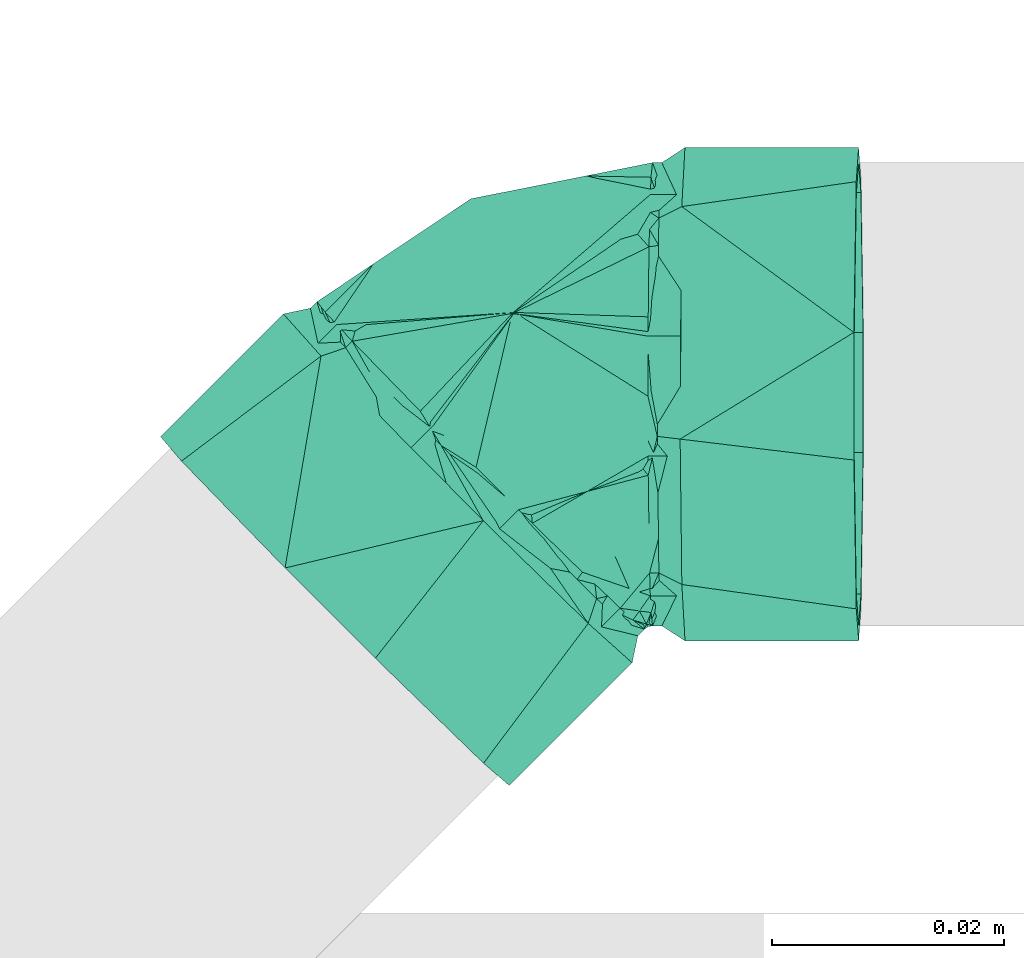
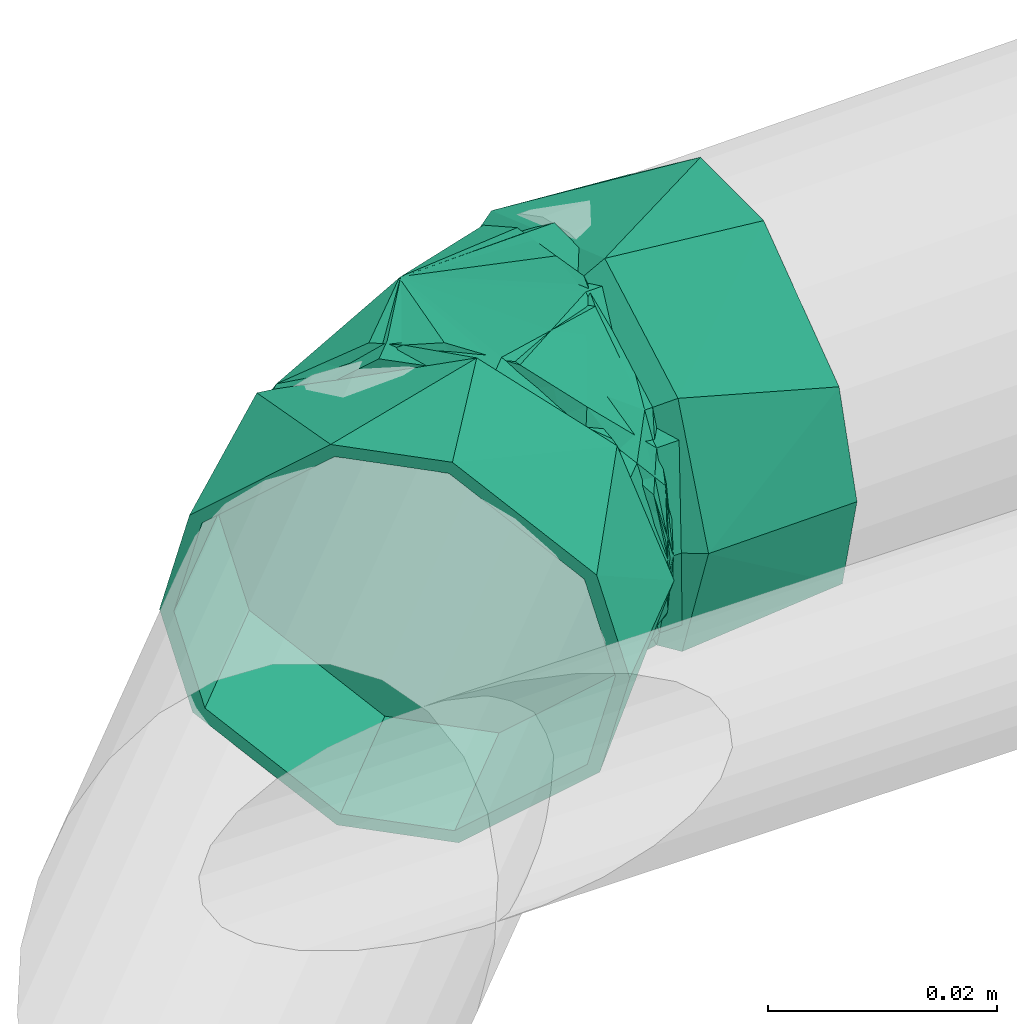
# One storey, part 306 of 589: 1 flow fitting.
"""IFC2X3 building model written with IfcOpenShell, lengths in millimetres."""

from ifc_helpers import new_model, entity, si_unit, converted_unit, derived_unit, direction, frame, origin, place, context, subcontext, project, spatial, faceted_brep, source, transform, mapped, material, type_object, type_shapes, element, save


model = new_model("IFC2X3")

# Units and contexts
model_context = context("Model", 3, precision=0.01, world=origin(), true_north=direction((6.123031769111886e-17, 1.0)))
body_context = subcontext(model_context, "Body", "Model", "MODEL_VIEW")
ifc_project = project(units=[si_unit("LENGTHUNIT", "METRE", prefix="MILLI"), si_unit("AREAUNIT", "SQUARE_METRE"), si_unit("VOLUMEUNIT", "CUBIC_METRE"), converted_unit("PLANEANGLEUNIT", "DEGREE", entity("IfcRatioMeasure", 0.017453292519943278), si_unit("PLANEANGLEUNIT", "RADIAN"), dimensions=[0, 0, 0, 0, 0, 0, 0]), si_unit("MASSUNIT", "GRAM", prefix="KILO"), derived_unit("MASSDENSITYUNIT", [(si_unit("MASSUNIT", "GRAM", prefix="KILO"), 1), (si_unit("LENGTHUNIT", "METRE"), -3)]), derived_unit("IONCONCENTRATIONUNIT", [(si_unit("MASSUNIT", "GRAM", prefix="KILO"), 1), (si_unit("LENGTHUNIT", "METRE"), -3)]), derived_unit("MOMENTOFINERTIAUNIT", [(si_unit("LENGTHUNIT", "METRE"), 4)]), si_unit("TIMEUNIT", "SECOND"), si_unit("FREQUENCYUNIT", "HERTZ"), si_unit("THERMODYNAMICTEMPERATUREUNIT", "DEGREE_CELSIUS"), derived_unit("THERMALTRANSMITTANCEUNIT", [(si_unit("MASSUNIT", "GRAM", prefix="KILO"), 1), (si_unit("THERMODYNAMICTEMPERATUREUNIT", "KELVIN"), -1), (si_unit("TIMEUNIT", "SECOND"), -3)]), derived_unit("THERMALCONDUCTANCEUNIT", [(si_unit("MASSUNIT", "GRAM", prefix="KILO"), 1), (si_unit("THERMODYNAMICTEMPERATUREUNIT", "KELVIN"), -1), (si_unit("TIMEUNIT", "SECOND"), -3), (si_unit("LENGTHUNIT", "METRE"), 1)]), derived_unit("VOLUMETRICFLOWRATEUNIT", [(si_unit("LENGTHUNIT", "METRE"), 3), (si_unit("TIMEUNIT", "SECOND"), -1)]), derived_unit("MASSFLOWRATEUNIT", [(si_unit("MASSUNIT", "GRAM", prefix="KILO"), 1), (si_unit("TIMEUNIT", "SECOND"), -1)]), derived_unit("ROTATIONALFREQUENCYUNIT", [(si_unit("TIMEUNIT", "SECOND"), -1)]), si_unit("ELECTRICCURRENTUNIT", "AMPERE"), si_unit("ELECTRICVOLTAGEUNIT", "VOLT"), si_unit("POWERUNIT", "WATT"), si_unit("FORCEUNIT", "NEWTON", prefix="KILO"), si_unit("ILLUMINANCEUNIT", "LUX"), si_unit("LUMINOUSFLUXUNIT", "LUMEN"), si_unit("LUMINOUSINTENSITYUNIT", "CANDELA"), derived_unit("USERDEFINED", [(si_unit("MASSUNIT", "GRAM", prefix="KILO"), -1), (si_unit("LENGTHUNIT", "METRE"), -2), (si_unit("TIMEUNIT", "SECOND"), 3), (si_unit("LUMINOUSFLUXUNIT", "LUMEN"), 1)]), derived_unit("USERDEFINED", [(si_unit("MASSUNIT", "GRAM", prefix="KILO"), 1), (si_unit("TIMEUNIT", "SECOND"), -3), (si_unit("LENGTHUNIT", "METRE"), 3), (si_unit("ELECTRICCURRENTUNIT", "AMPERE"), -2)]), derived_unit("SOUNDPOWERUNIT", [(si_unit("MASSUNIT", "GRAM", prefix="KILO"), 1), (si_unit("TIMEUNIT", "SECOND"), -3), (si_unit("LENGTHUNIT", "METRE"), 2)]), derived_unit("SOUNDPRESSUREUNIT", [(si_unit("MASSUNIT", "GRAM", prefix="KILO"), 1), (si_unit("LENGTHUNIT", "METRE"), -1), (si_unit("TIMEUNIT", "SECOND"), -2)]), derived_unit("LINEARVELOCITYUNIT", [(si_unit("LENGTHUNIT", "METRE"), 1), (si_unit("TIMEUNIT", "SECOND"), -1)]), si_unit("PRESSUREUNIT", "PASCAL"), derived_unit("USERDEFINED", [(si_unit("MASSUNIT", "GRAM", prefix="KILO"), 1), (si_unit("LENGTHUNIT", "METRE"), -2), (si_unit("TIMEUNIT", "SECOND"), -2)]), derived_unit("LINEARFORCEUNIT", [(si_unit("MASSUNIT", "GRAM", prefix="KILO"), 1), (si_unit("TIMEUNIT", "SECOND"), -2)]), derived_unit("PLANARFORCEUNIT", [(si_unit("MASSUNIT", "GRAM", prefix="KILO"), 1), (si_unit("LENGTHUNIT", "METRE"), -1), (si_unit("TIMEUNIT", "SECOND"), -2)]), derived_unit("SPECIFICHEATCAPACITYUNIT", [(si_unit("THERMODYNAMICTEMPERATUREUNIT", "KELVIN"), -1), (si_unit("LENGTHUNIT", "METRE"), 2), (si_unit("TIMEUNIT", "SECOND"), -2)]), derived_unit("HEATINGVALUEUNIT", [(si_unit("LENGTHUNIT", "METRE"), 2), (si_unit("TIMEUNIT", "SECOND"), -2)]), derived_unit("VAPORPERMEABILITYUNIT", [(si_unit("LENGTHUNIT", "METRE"), -1), (si_unit("TIMEUNIT", "SECOND"), 1)]), derived_unit("DYNAMICVISCOSITYUNIT", [(si_unit("MASSUNIT", "GRAM", prefix="KILO"), 1), (si_unit("TIMEUNIT", "SECOND"), -1), (si_unit("LENGTHUNIT", "METRE"), -1)]), derived_unit("THERMALEXPANSIONCOEFFICIENTUNIT", [(si_unit("THERMODYNAMICTEMPERATUREUNIT", "KELVIN"), -1)]), derived_unit("MODULUSOFELASTICITYUNIT", [(si_unit("MASSUNIT", "GRAM", prefix="KILO"), 1), (si_unit("LENGTHUNIT", "METRE"), -1), (si_unit("TIMEUNIT", "SECOND"), -2)]), derived_unit("ISOTHERMALMOISTURECAPACITYUNIT", [(si_unit("LENGTHUNIT", "METRE"), 3), (si_unit("MASSUNIT", "GRAM", prefix="KILO"), -1)]), derived_unit("MOISTUREDIFFUSIVITYUNIT", [(si_unit("TIMEUNIT", "SECOND"), -1), (si_unit("LENGTHUNIT", "METRE"), 2)])], contexts=[model_context])

# Site, building, storey
site_placement = place(None, origin())
site = spatial("IfcSite", under=ifc_project, at=site_placement, Name="Default", CompositionType="ELEMENT")
building_placement = place(site_placement, origin())
building = spatial("IfcBuilding", under=site, at=building_placement, CompositionType="ELEMENT")
storey_placement = place(building_placement, frame((0.0, 0.0, 100.0)))
storey = spatial("IfcBuildingStorey", under=building, at=storey_placement, Name="TÉRREO", CompositionType="ELEMENT", Elevation=100.0)

# Flow fitting
ifc_material = material(Name="PVC Série Normal")
pipe_fitting_type = type_object("IfcPipeFittingType", Name="PVC Esgoto_Joelho 45_90_Rodrigo MEP:a. Série Normal", PredefinedType="NOTDEFINED", material=ifc_material)
shared_shape = source(origin(), body_context, "Body", "Brep", [
    faceted_brep([(2.4906876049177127, 9.80915852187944, 19.318516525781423), (-6.095084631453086, 18.39777540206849, 10.0), (-7.989457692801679, 20.29277610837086, 0.0), (-6.095084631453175, 18.397775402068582, -10.0), (2.4906876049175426, 9.80915852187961, -19.31851652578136), (9.809983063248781, 2.4874380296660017, -19.318516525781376), (18.39575529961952, -6.101178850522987, -10.0), (20.290128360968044, -7.99617955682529, 0.0), (18.39575529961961, -6.101178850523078, 10.0), (9.809983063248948, 2.4874380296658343, 19.318516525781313), (22.27035525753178, -6.016608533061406, 0.0), (20.37598219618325, -4.121607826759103, -10.0), (11.790209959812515, 4.467009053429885, -19.318516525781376), (4.470914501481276, 11.788729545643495, -19.31851652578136), (-4.1148577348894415, 20.377346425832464, -10.0), (-6.009230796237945, 22.272347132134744, 0.0), (-4.114857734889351, 20.377346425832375, 10.0), (4.470914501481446, 11.788729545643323, 19.318516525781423), (11.790209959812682, 4.467009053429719, 19.318516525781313), (20.37598219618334, -4.12160782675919, 10.0)], [[[0, 1, 2, 3, 4, 5, 6, 7, 8, 9]], [[10, 11, 12, 13, 14, 15, 16, 17, 18, 19]], [[7, 10, 19, 8]], [[8, 19, 18, 9]], [[18, 17, 0, 9]], [[0, 17, 16, 1]], [[1, 16, 15, 2]], [[2, 15, 14, 3]], [[3, 14, 13, 4]], [[13, 12, 5, 4]], [[5, 12, 11, 6]], [[6, 11, 10, 7]]]),
    faceted_brep([(-11.496447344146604, -17.320508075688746, -10.0), (-11.496447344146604, -20.0, 0.0), (-11.496447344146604, -17.320508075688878, 10.0), (-11.496447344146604, -5.176380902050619, 19.318516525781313), (-11.496447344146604, 5.1763809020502, 19.318516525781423), (-11.496447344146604, 17.320508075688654, 10.0), (-11.496447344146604, 20.0, 0.0), (-11.496447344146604, 17.320508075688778, -10.0), (-11.496447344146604, 5.17638090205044, -19.31851652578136), (-11.496447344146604, -5.176380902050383, -19.318516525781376), (-8.696447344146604, 5.17638090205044, -19.31851652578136), (-8.696447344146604, 17.320508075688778, -10.0), (-8.696447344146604, 20.0, 0.0), (-8.696447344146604, 17.320508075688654, 10.0), (-8.696447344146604, 5.1763809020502, 19.318516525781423), (-8.696447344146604, -5.176380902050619, 19.318516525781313), (-8.696447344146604, -17.320508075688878, 10.0), (-8.696447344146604, -20.0, 0.0), (-8.696447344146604, -17.320508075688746, -10.0), (-8.696447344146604, -5.176380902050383, -19.318516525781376)], [[[0, 1, 2, 3, 4, 5, 6, 7, 8, 9]], [[10, 11, 12, 13, 14, 15, 16, 17, 18, 19]], [[1, 17, 16, 2]], [[2, 16, 15, 3]], [[15, 14, 4, 3]], [[4, 14, 13, 5]], [[5, 13, 12, 6]], [[6, 12, 11, 7]], [[7, 11, 10, 8]], [[10, 19, 9, 8]], [[9, 19, 18, 0]], [[0, 18, 17, 1]]]),
    faceted_brep([(-26.496447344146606, -5.512845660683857, -20.574220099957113), (-26.496447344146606, -5.176380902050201, -19.318516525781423), (-26.496447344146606, 5.176380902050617, -19.318516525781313), (-26.496447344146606, -18.44634110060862, -10.649999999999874), (-26.496447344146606, 5.512845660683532, -20.574220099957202), (-26.496447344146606, -17.320508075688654, -10.0), (-26.496447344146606, -20.0, 0.0), (-26.496447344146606, -21.3, 0.0), (-26.496447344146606, -17.32050807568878, 10.0), (-26.496447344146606, -18.446341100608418, 10.65000000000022), (-26.496447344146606, -5.176380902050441, 19.31851652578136), (-26.496447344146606, -5.512845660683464, 20.574220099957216), (-26.496447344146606, 5.176380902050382, 19.318516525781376), (-26.496447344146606, 5.512845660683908, 20.5742200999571), (-26.496447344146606, 17.320508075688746, 10.0), (-26.496447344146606, 18.446341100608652, 10.649999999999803), (-26.496447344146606, 21.3, 0.0), (-26.496447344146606, 20.0, 0.0), (-26.496447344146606, 18.44634110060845, -10.650000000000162), (-26.496447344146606, 17.320508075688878, -10.0), (-11.496447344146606, 17.320508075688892, -10.0), (-11.496447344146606, 20.0, 0.0), (-11.496447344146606, 5.17638090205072, -19.318516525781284), (-11.496447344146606, -5.176380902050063, -19.31851652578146), (-11.496447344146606, -17.320508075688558, -10.0), (-11.496447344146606, -20.0, 0.0), (-11.496447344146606, -17.320508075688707, 10.0), (-11.496447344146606, -5.176380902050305, 19.318516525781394), (-11.496447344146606, 5.176380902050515, 19.318516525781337), (-11.496447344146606, 17.320508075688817, 10.0), (-11.496447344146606, 21.3, 0.0), (-11.496447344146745, 16.315983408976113, 13.692285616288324), (-11.496447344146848, 3.696367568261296, 20.976817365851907), (-11.496447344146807, -16.31941754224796, 13.688192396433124), (-11.496447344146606, -21.3, 0.0), (-11.496447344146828, -6.311524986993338, 17.3325048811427), (-11.496447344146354, -16.319417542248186, -13.688192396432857), (-11.496447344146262, -3.7016293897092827, -20.975889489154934), (-11.49644734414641, 16.315983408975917, -13.692285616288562), (-11.496447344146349, 6.307177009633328, -17.334087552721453), (-9.496447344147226, -3.470767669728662, -19.69654212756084), (-9.496447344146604, 20.0, 0.0), (-9.496447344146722, 18.830849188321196, -3.2131907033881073), (-9.496447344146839, 17.66169837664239, -6.426381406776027), (-9.496447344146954, 16.4925475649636, -9.639572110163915), (-9.496447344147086, 15.323396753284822, -12.852762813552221), (-9.496447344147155, 5.9263145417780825, -16.27465247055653), (-9.496447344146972, -15.320172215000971, -12.856606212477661), (-9.496447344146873, -16.490129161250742, -9.642454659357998), (-9.496447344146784, -17.660086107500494, -6.428303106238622), (-9.496447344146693, -18.830043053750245, -3.214151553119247), (-9.496447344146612, -20.0, 0.0), (-9.496447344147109, 10.624855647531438, -14.563707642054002), (-9.496447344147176, 1.2277734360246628, -17.98559729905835), (-9.49644734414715, -6.433118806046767, -17.98655814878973), (-9.496447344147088, -9.395469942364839, -16.276574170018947), (-9.496447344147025, -12.357821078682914, -14.566590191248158), (-9.49644734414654, -18.830043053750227, 3.2141515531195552), (-9.496447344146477, -17.660086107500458, 6.428303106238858), (-9.49644734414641, -16.490129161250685, 9.64245465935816), (-9.496447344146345, -15.3201722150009, 12.856606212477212), (-9.496447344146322, -12.970687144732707, 13.711489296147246), (-9.496447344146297, -10.621202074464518, 14.566372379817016), (-9.496447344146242, -5.922231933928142, 16.27613854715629), (-9.496447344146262, 15.323396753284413, 12.852762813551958), (-9.496447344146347, 16.49254756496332, 9.63957211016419), (-9.496447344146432, 17.661698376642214, 6.426381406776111), (-9.496447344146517, 18.830849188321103, 3.213190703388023), (-9.496447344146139, 3.47570834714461, 19.695670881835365), (-9.496447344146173, 6.43763044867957, 17.984943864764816), (-9.496447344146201, 9.399552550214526, 16.274216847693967), (-9.496447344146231, 12.361474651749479, 14.563489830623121), (-9.496447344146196, -1.2232617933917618, 17.985904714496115), (-8.696447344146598, 17.057389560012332, 9.848048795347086), (-8.696447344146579, 6.840479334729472, 18.793824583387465), (-8.696447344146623, -9.848049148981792, 17.057385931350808), (-8.696447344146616, -3.420183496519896, 19.396932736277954), (-8.696447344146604, 0.0, 20.0), (-8.696447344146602, 19.396930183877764, 3.4201905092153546), (-8.696447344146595, 15.320918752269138, 12.855716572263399), (-8.696447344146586, 11.080699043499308, 15.82477057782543), (-8.696447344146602, 18.793860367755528, 6.840381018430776), (-8.696447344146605, -18.793848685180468, 6.840413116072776), (-8.696447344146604, 20.0, 0.0), (-8.696447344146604, -20.0, 0.0), (-8.69644734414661, -15.824789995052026, 11.080659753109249), (-8.696447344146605, -19.156924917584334, 4.781308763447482), (-8.696447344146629, -6.84036699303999, 18.793865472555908), (-8.696447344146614, -14.34026064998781, 13.200783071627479), (-8.696447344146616, -12.855731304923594, 15.320906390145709), (-8.696447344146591, 3.420239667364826, 19.396912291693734), (-8.696447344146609, -17.057361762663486, -9.848091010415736), (-8.696447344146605, -18.793848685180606, -6.840413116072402), (-8.696447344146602, 19.39693018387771, -3.4201905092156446), (-8.696447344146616, -3.420183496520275, -19.396932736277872), (-8.696447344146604, 0.0, -20.0), (-8.696447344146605, -19.396924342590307, -3.4202065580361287), (-8.696447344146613, -15.320874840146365, -12.85576890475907), (-8.69644734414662, -11.080620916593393, -15.824817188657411), (-8.696447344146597, 15.824828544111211, -11.080616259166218), (-8.696447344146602, 18.79386036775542, -6.84038101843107), (-8.696447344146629, -6.840366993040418, -18.79386547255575), (-8.696447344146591, 12.855796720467, -15.320851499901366), (-8.696447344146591, 3.420239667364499, -19.396912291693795), (-8.696447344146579, 6.840479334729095, -18.7938245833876), (-8.696447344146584, 9.848138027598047, -17.05733804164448), (9.809983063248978, 2.4874380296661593, -19.318516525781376), (2.4906876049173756, 9.809158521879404, -19.31851652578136), (-6.095084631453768, 18.397775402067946, -10.0), (-7.989457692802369, 20.292776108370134, 0.0), (-6.095084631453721, 18.3977754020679, 10.0), (2.490687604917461, 9.809158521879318, 19.31851652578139), (9.809983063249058, 2.487438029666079, 19.318516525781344), (18.395755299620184, -6.101178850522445, 10.0), (20.29012836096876, -7.996179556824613, 0.0), (18.39575529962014, -6.101178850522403, -10.0), (-2.9114305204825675, -18.849537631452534, 0.0), (15.385461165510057, -11.272492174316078, 0.0), (2.8664382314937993, -7.211469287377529, 17.605576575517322), (6.9904363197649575, -16.880360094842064, 0.0), (-8.313840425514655, 20.076088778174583, 0.0), (2.8664382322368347, -7.211469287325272, -17.605576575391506)], [[[0, 1, 2]], [[1, 0, 3]], [[2, 4, 0]], [[3, 5, 1]], [[3, 6, 5]], [[6, 3, 7]], [[8, 6, 7]], [[8, 7, 9]], [[9, 10, 8]], [[9, 11, 10]], [[10, 11, 12]], [[13, 12, 11]], [[13, 14, 12]], [[14, 13, 15]], [[16, 14, 15]], [[17, 14, 16]], [[18, 17, 16]], [[18, 19, 17]], [[19, 18, 4]], [[4, 2, 19]], [[20, 21, 17, 19]], [[22, 20, 19, 2]], [[2, 1, 23, 22]], [[24, 23, 1, 5]], [[25, 24, 5, 6]], [[26, 25, 6, 8]], [[27, 26, 8, 10]], [[10, 12, 28, 27]], [[29, 28, 12, 14]], [[21, 29, 14, 17]], [[16, 15, 30]], [[15, 31, 30]], [[31, 15, 13]], [[31, 13, 32]], [[33, 11, 9]], [[34, 9, 7]], [[11, 33, 35, 32]], [[33, 9, 34]], [[11, 32, 13]], [[7, 3, 34]], [[3, 36, 34]], [[36, 3, 0]], [[36, 0, 37]], [[38, 4, 18]], [[30, 18, 16]], [[4, 38, 39, 37]], [[38, 18, 30]], [[4, 37, 0]], [[28, 29, 21, 20, 22, 23, 24, 25, 26, 27]], [[39, 40, 37]], [[30, 41, 42, 43, 44, 45]], [[30, 45, 38]], [[38, 46, 39]], [[36, 47, 48, 49, 50, 51]], [[38, 45, 52, 46]], [[36, 37, 47]], [[34, 36, 51]], [[39, 46, 53, 40]], [[37, 40, 54, 55, 56, 47]], [[33, 51, 57, 58, 59, 60]], [[33, 34, 51]], [[60, 35, 33]], [[35, 60, 61, 62, 63]], [[63, 32, 35]], [[30, 64, 65, 66, 67, 41]], [[31, 68, 69, 70, 71, 64]], [[31, 64, 30]], [[32, 63, 72, 68]], [[68, 31, 32]], [[64, 73, 65]], [[74, 70, 69, 68]], [[62, 75, 63]], [[76, 77, 72]], [[78, 67, 66]], [[79, 71, 80]], [[65, 81, 66]], [[64, 79, 73]], [[82, 59, 58]], [[83, 41, 67]], [[84, 57, 51]], [[60, 59, 85]], [[83, 67, 78]], [[86, 82, 58]], [[81, 65, 73]], [[63, 87, 76]], [[63, 76, 72]], [[63, 75, 87]], [[82, 85, 59]], [[68, 72, 77]], [[66, 81, 78]], [[61, 88, 89]], [[89, 62, 61]], [[68, 77, 90, 74]], [[84, 86, 57]], [[86, 58, 57]], [[89, 75, 62]], [[61, 60, 88]], [[60, 85, 88]], [[74, 80, 70]], [[71, 79, 64]], [[71, 70, 80]], [[49, 91, 92]], [[93, 43, 42]], [[54, 40, 94]], [[40, 53, 95]], [[51, 96, 84]], [[97, 56, 98]], [[48, 97, 91]], [[91, 49, 48]], [[99, 44, 100]], [[101, 55, 54]], [[96, 51, 50]], [[83, 42, 41]], [[45, 99, 102]], [[49, 92, 50]], [[42, 83, 93]], [[48, 47, 97]], [[53, 103, 95]], [[104, 103, 46]], [[52, 105, 46]], [[44, 99, 45]], [[46, 103, 53]], [[50, 92, 96]], [[105, 52, 102]], [[44, 43, 100]], [[40, 95, 94]], [[100, 43, 93]], [[102, 52, 45]], [[105, 104, 46]], [[101, 98, 55]], [[54, 94, 101]], [[56, 97, 47]], [[56, 55, 98]], [[106, 107, 108, 109, 110, 111, 112, 113, 114, 115]], [[116, 89, 88, 85, 82]], [[117, 118, 119]], [[118, 89, 119]], [[118, 77, 76, 87]], [[116, 82, 86, 84]], [[118, 74, 90, 77]], [[110, 81, 73, 79]], [[111, 79, 80, 74]], [[118, 87, 75, 89]], [[89, 116, 119]], [[74, 118, 111]], [[118, 113, 112]], [[118, 117, 113]], [[120, 83, 78, 81]], [[81, 109, 120]], [[109, 81, 110]], [[117, 114, 113]], [[111, 110, 79]], [[111, 118, 112]], [[104, 107, 121]], [[116, 92, 91, 97]], [[108, 102, 99, 100]], [[115, 121, 106]], [[97, 121, 119]], [[107, 104, 105, 102]], [[116, 84, 96, 92]], [[97, 119, 116]], [[121, 97, 98, 101]], [[121, 95, 103, 104]], [[109, 100, 120]], [[108, 100, 109]], [[107, 102, 108]], [[121, 101, 94, 95]], [[107, 106, 121]], [[119, 121, 117]], [[115, 117, 121]], [[115, 114, 117]], [[120, 100, 93, 83]]]),
    faceted_brep([(-6.009230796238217, 22.27234713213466, 0.0), (-4.114857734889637, 20.37734642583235, 10.0), (4.470914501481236, 11.788729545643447, 19.318516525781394), (11.790209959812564, 4.467009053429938, 19.318516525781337), (20.375982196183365, -4.1216078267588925, 10.0), (22.27035525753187, -6.016608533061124, 0.0), (20.37598219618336, -4.121607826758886, -10.0), (11.790209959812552, 4.467009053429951, -19.318516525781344), (4.470914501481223, 11.788729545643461, -19.31851652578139), (-4.114857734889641, 20.377346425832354, -10.0), (23.18944180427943, -6.935999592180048, 0.0), (20.855907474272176, -7.430587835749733, 0.0), (20.02932994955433, -6.603736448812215, -3.213190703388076), (19.20275242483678, -5.7768850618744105, -6.426381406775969), (18.376174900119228, -4.950033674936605, -9.639572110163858), (17.54959737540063, -4.123182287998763, -12.852762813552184), (3.6683793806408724, 12.591530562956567, -17.332504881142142), (10.743855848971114, 5.513709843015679, -20.976817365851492), (4.26231762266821, 9.168499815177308, -19.69654212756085), (19.665793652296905, -3.411183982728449, -13.692285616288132), (-4.115088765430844, 17.54868181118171, -12.856606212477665), (-3.407097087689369, 19.669351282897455, -13.688192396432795), (2.167966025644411, 11.263545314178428, -17.986558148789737), (0.0736144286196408, 13.358590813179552, -16.27657417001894), (-2.0207371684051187, 15.453636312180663, -14.566590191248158), (10.905957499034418, 2.5226587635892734, -16.274652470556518), (-4.942236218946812, 18.37610331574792, -9.642454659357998), (-5.7693836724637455, 19.203524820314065, -6.428303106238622), (-6.596531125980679, 20.030946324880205, -3.2141515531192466), (-7.423678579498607, 20.858367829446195, 0.0), (-6.928317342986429, 23.191738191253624, 0.0), (14.227777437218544, -0.800261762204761, -14.563707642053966), (7.584137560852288, 5.845579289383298, -17.98559729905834), (-3.4070970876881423, 19.669351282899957, 13.688192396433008), (-6.596531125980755, 20.030946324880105, 3.2141515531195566), (-5.7693836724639, 19.20352482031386, 6.428303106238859), (-4.942236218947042, 18.37610331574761, 9.64245465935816), (-4.115088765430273, 17.548681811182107, 12.856606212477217), (12.589671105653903, 3.6672830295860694, 17.334087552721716), (5.513548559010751, 10.745750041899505, 20.97588948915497), (9.173404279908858, 4.255786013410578, 19.695670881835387), (17.549597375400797, -4.123182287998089, 12.852762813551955), (19.66579365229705, -3.4111839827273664, 13.692285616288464), (11.267452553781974, 2.1610439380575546, 17.984943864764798), (13.361500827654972, 0.0663018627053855, 16.274216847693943), (15.455549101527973, -2.028440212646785, 14.563489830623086), (2.5291577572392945, 10.902233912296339, 16.276138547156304), (18.376174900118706, -4.950033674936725, 9.639572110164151), (19.202752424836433, -5.77688506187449, 6.426381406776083), (20.029329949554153, -6.603736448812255, 3.2131907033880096), (-2.4540271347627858, 15.887069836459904, 13.711489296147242), (-0.7929655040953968, 14.225457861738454, 14.566372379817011), (5.851281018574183, 7.579009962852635, 17.985904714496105), (14.841395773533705, 22.631530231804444, -20.574220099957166), (15.079272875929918, 22.39357431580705, -19.318516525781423), (22.398568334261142, 15.071853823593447, -19.318516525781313), (5.697548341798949, 31.77840720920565, -10.649999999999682), (22.63644543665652, 14.833897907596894, -20.574220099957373), (6.493500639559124, 30.982191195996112, -10.0), (4.599127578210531, 32.877191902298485, 0.0), (3.6800410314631, 33.79658296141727, 0.0), (6.493500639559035, 30.9821911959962, 10.0), (5.69754834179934, 31.778407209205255, 10.650000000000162), (15.079272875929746, 22.393574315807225, 19.31851652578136), (14.841395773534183, 22.631530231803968, 20.5742200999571), (22.39856833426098, 15.071853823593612, 19.318516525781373), (22.636445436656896, 14.833897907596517, 20.57422009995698), (30.984340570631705, 6.48323694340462, 10.0), (31.780292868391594, 5.687020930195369, 10.649999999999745), (33.79780017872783, 3.668845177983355, 0.0), (32.87871363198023, 4.588236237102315, 0.0), (31.780292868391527, 5.687020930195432, -10.650000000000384), (30.984340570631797, 6.4832369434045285, -10.0), (18.209713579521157, -5.915075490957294, 9.848091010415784), (10.98640400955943, 1.3106273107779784, 18.793865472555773), (-0.8121963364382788, 13.113136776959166, 17.057338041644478), (3.7322612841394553, 8.567173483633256, 19.396912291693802), (6.150335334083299, 6.148298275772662, 20.0), (19.863760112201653, -7.5696700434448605, 3.420206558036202), (16.98203529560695, -4.686990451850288, 12.855768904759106), (13.984219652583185, -1.6881815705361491, 15.824817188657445), (19.43739186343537, -7.143160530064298, 6.84041311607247), (-7.136729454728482, 19.43976534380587, 6.840381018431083), (20.29012836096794, -7.996179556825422, 0.0), (-7.989457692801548, 20.29277610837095, 0.0), (-5.037654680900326, 17.33999510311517, 11.080616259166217), (-7.393415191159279, 19.696536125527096, 4.781309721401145), (1.3141872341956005, 10.986048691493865, 18.793824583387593), (-3.98811729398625, 16.290109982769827, 13.200733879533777), (-2.9385799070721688, 15.240224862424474, 15.320851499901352), (8.568369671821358, 3.7294627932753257, 19.39693273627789), (-5.909062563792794, 18.211691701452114, -9.848048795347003), (-7.13672945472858, 19.439765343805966, -6.840381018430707), (19.86376011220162, -7.5696700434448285, -3.420206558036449), (3.732261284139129, 8.567173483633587, -19.396912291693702), (6.15033533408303, 6.148298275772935, -20.0), (-7.563093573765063, 19.86627072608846, -3.4201905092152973), (-4.681395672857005, 16.983618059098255, -12.85571657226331), (-1.6836042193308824, 13.98483337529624, -15.824770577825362), (17.33829809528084, -5.043371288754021, -11.080659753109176), (19.437391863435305, -7.143160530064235, -6.840413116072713), (1.3141872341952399, 10.986048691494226, -18.793824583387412), (15.23920432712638, -2.9435820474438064, -15.32090639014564), (8.568369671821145, 3.729462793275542, -19.396932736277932), (10.986404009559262, 1.3106273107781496, -18.79386547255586), (13.112804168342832, -0.8164773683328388, -17.05738593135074), (-8.696447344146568, -17.32050807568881, 10.0), (-8.696447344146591, -5.176380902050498, 19.318516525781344), (-8.696447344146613, 5.176380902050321, 19.31851652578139), (-8.696447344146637, 17.320508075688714, 10.0), (-8.696447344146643, 20.0, 0.0), (-8.696447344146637, 17.320508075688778, -10.0), (-8.696447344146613, 5.176380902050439, -19.31851652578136), (-8.696447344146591, -5.176380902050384, -19.318516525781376), (-8.696447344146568, -17.32050807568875, -10.0), (-8.696447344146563, -20.0, 0.0), (6.9904363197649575, -16.880360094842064, 0.0), (3.0712196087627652, -7.126666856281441, 17.605576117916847), (-2.9114305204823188, -18.84953763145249, 0.0), (-8.313840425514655, 20.076088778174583, 0.0), (15.385461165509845, -11.272492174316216, 0.0), (3.071219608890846, -7.126666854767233, -17.6055761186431)], [[[0, 1, 2, 3, 4, 5, 6, 7, 8, 9]], [[10, 11, 12, 13, 14, 15]], [[16, 17, 18]], [[19, 10, 15]], [[16, 20, 21]], [[16, 18, 22, 23, 24, 20]], [[19, 25, 17]], [[21, 20, 26, 27, 28, 29]], [[21, 29, 30]], [[19, 15, 31, 25]], [[17, 25, 32, 18]], [[33, 29, 34, 35, 36, 37]], [[38, 39, 40]], [[33, 30, 29]], [[38, 41, 42]], [[38, 40, 43, 44, 45, 41]], [[33, 46, 39]], [[10, 41, 47, 48, 49, 11]], [[42, 41, 10]], [[33, 37, 50, 51, 46]], [[39, 46, 52, 40]], [[53, 54, 55]], [[54, 53, 56]], [[55, 57, 53]], [[56, 58, 54]], [[56, 59, 58]], [[59, 56, 60]], [[61, 59, 60]], [[61, 60, 62]], [[62, 63, 61]], [[62, 64, 63]], [[63, 64, 65]], [[66, 65, 64]], [[66, 67, 65]], [[67, 66, 68]], [[69, 67, 68]], [[70, 67, 69]], [[71, 70, 69]], [[71, 72, 70]], [[72, 71, 57]], [[57, 55, 72]], [[69, 68, 10]], [[68, 42, 10]], [[42, 68, 66]], [[66, 39, 38, 42]], [[33, 64, 62]], [[30, 62, 60]], [[64, 33, 39]], [[33, 62, 30]], [[64, 39, 66]], [[60, 56, 30]], [[56, 21, 30]], [[21, 56, 53]], [[53, 17, 16, 21]], [[19, 57, 71]], [[10, 71, 69]], [[57, 19, 17]], [[19, 71, 10]], [[57, 17, 53]], [[6, 5, 70, 72]], [[7, 6, 72, 55]], [[55, 54, 8, 7]], [[9, 8, 54, 58]], [[0, 9, 58, 59]], [[1, 0, 59, 61]], [[2, 1, 61, 63]], [[63, 65, 3, 2]], [[4, 3, 65, 67]], [[5, 4, 67, 70]], [[41, 73, 47]], [[74, 44, 43, 40]], [[51, 75, 46]], [[76, 77, 52]], [[78, 49, 48]], [[79, 45, 80]], [[47, 81, 48]], [[41, 79, 73]], [[82, 36, 35]], [[83, 11, 49]], [[84, 34, 29]], [[37, 36, 85]], [[83, 49, 78]], [[86, 82, 35]], [[81, 47, 73]], [[46, 87, 76]], [[46, 76, 52]], [[46, 75, 87]], [[82, 85, 36]], [[40, 52, 77]], [[48, 81, 78]], [[50, 88, 89]], [[89, 51, 50]], [[40, 77, 90, 74]], [[84, 86, 34]], [[86, 35, 34]], [[89, 75, 51]], [[50, 37, 88]], [[37, 85, 88]], [[74, 80, 44]], [[45, 79, 41]], [[45, 44, 80]], [[27, 91, 92]], [[93, 13, 12]], [[22, 18, 94]], [[18, 32, 95]], [[29, 96, 84]], [[97, 24, 98]], [[26, 97, 91]], [[91, 27, 26]], [[99, 14, 100]], [[101, 23, 22]], [[96, 29, 28]], [[83, 12, 11]], [[15, 99, 102]], [[27, 92, 28]], [[12, 83, 93]], [[26, 20, 97]], [[32, 103, 95]], [[104, 103, 25]], [[31, 105, 25]], [[14, 99, 15]], [[25, 103, 32]], [[28, 92, 96]], [[105, 31, 102]], [[14, 13, 100]], [[18, 95, 94]], [[100, 13, 93]], [[102, 31, 15]], [[105, 104, 25]], [[101, 98, 23]], [[22, 94, 101]], [[24, 97, 20]], [[24, 23, 98]], [[106, 107, 108, 109, 110, 111, 112, 113, 114, 115]], [[116, 117, 118]], [[107, 117, 108]], [[118, 117, 106]], [[109, 108, 89]], [[82, 119, 110]], [[110, 109, 82]], [[106, 115, 118]], [[117, 74, 90, 77]], [[79, 117, 116]], [[117, 79, 80, 74]], [[79, 116, 120]], [[117, 77, 76, 87]], [[119, 82, 86, 84]], [[120, 81, 73, 79]], [[109, 89, 88, 85, 82]], [[108, 87, 75, 89]], [[106, 117, 107]], [[117, 87, 108]], [[120, 83, 78, 81]], [[121, 112, 101]], [[111, 110, 92]], [[118, 115, 114]], [[111, 97, 112]], [[121, 118, 114]], [[121, 114, 113]], [[113, 112, 121]], [[92, 110, 119]], [[111, 92, 91, 97]], [[112, 97, 98, 101]], [[121, 104, 105, 102]], [[118, 121, 116]], [[121, 101, 94, 95]], [[102, 116, 121]], [[120, 100, 93, 83]], [[116, 102, 120]], [[120, 102, 99, 100]], [[121, 95, 103, 104]], [[119, 84, 96, 92]]]),
])
type_shapes(pipe_fitting_type, [shared_shape])
flow_fitting_placement = place(storey_placement, frame((-7126.341698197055, -7492.68162922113, -113.02032523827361), z_axis=(-0.019995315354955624, -0.008282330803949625, 0.9997657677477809), x_axis=(-0.999800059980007, 0.0, -0.019996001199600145)))
element("IfcFlowFitting", 1, at=flow_fitting_placement, inside=storey, type_object=pipe_fitting_type, material=ifc_material, Name="PVC Esgoto_Joelho 45_90_Rodrigo MEP:a. Série Normal", ObjectType="PVC Esgoto_Joelho 45_90_Rodrigo MEP:a. Série Normal", context=body_context, shape_type="MappedRepresentation", body=[
    mapped(shared_shape, transform((0.0, 0.0, 0.0), scale=1.0)),
])

save(model, "model.ifc")
